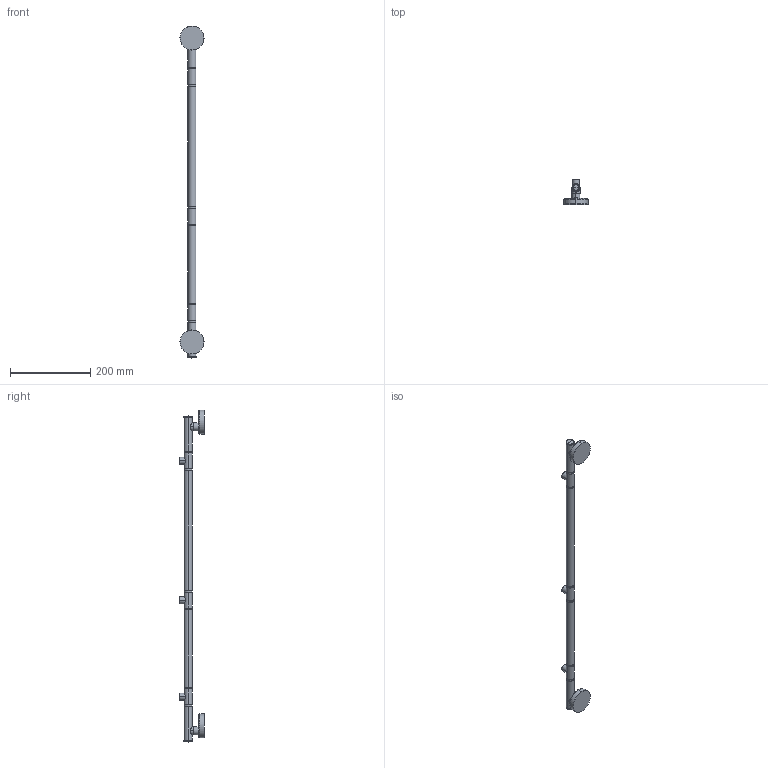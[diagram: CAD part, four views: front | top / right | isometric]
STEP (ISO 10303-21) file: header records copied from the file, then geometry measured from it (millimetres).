
FILE_DESCRIPTION(('THIS FILE CONTAINS SOME STEP INSTANCES'),'1');
FILE_NAME('ell_075.stp','2015-12-17T12:39:25',('UNDEFINED'),('UNDEFINED'),'T-FLEX CAD STEP converter','T-FLEX CAD','');
FILE_SCHEMA(('CONFIG_CONTROL_DESIGN'));
Length unit declared in the file: metre
Products named in the file (5): 3D 鐨飹懤艜_62; 3D 鐨飹懤艜_21; 3D 鐨飹懤艜_29; 髓礤轫 爨耨桠_9
Bounding box: 59.97 x 61.9 x 829 mm (x, y, z)
Volume: 350129.1 mm3; surface area: 76032.5 mm2
Topology: 5 solids, 7 shells, 247 faces, 530 edges, 301 vertices
Faces by surface type: cone 84, cylinder 76, bspline 39, plane 26, torus 18, sphere 4
Entity records: 22253 total; most frequent: CARTESIAN_POINT 17776, ORIENTED_EDGE 1052, DIRECTION 718, EDGE_CURVE 526, VERTEX_POINT 301, AXIS2_PLACEMENT_3D 279, EDGE_LOOP 261, ADVANCED_FACE 247
